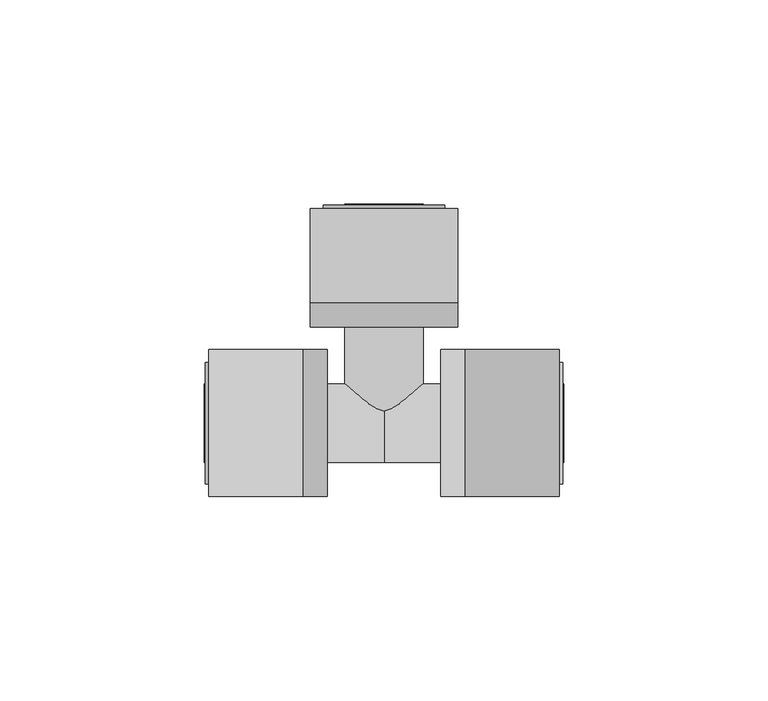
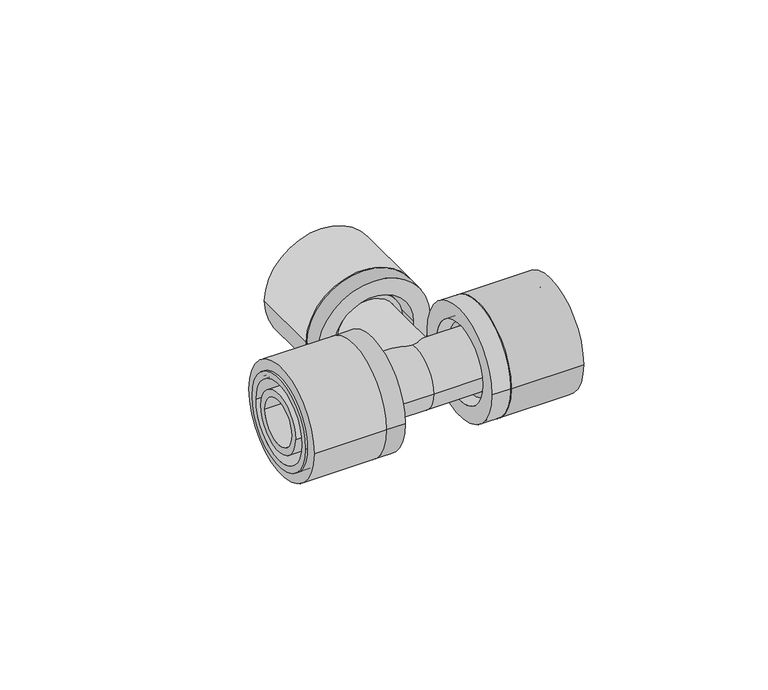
"""IFC4 building model written with IfcOpenShell, lengths in millimetres: pipe fitting geometry, FASTLOC_T-piece_LX : FSL T-Piece LX CZ."""

from ifc_helpers import new_model, si_unit, point, frame, origin, origin_2d, place, context, project, spatial, polyline, circle_curve, trimmed, segment, composite_curve, outline, extrude, source, transform, mapped, element, save
from ifc_brep_helpers import plane_surface, cylinder_surface, revolved_surface, advanced_brep


def pipe_fitting_da5243fc(model_context):
    return source(origin(), model_context, "Body", "SolidModel", [
        extrude(outline(composite_curve([segment(trimmed(circle_curve(origin_2d(), 18.0), [point((-18.0, 0.0))], [point((18.0, 0.0))], False, "CARTESIAN"), True, "CONTINUOUS"), segment(trimmed(circle_curve(origin_2d(), 18.0), [point((18.0, 0.0))], [point((-18.0, 0.0))], False, "CARTESIAN"), True, "CONTINUOUS")], self_intersect=False), holes=[composite_curve([segment(trimmed(circle_curve(origin_2d(), 13.5), [point((-13.5, 0.0))], [point((13.5, 0.0))], True, "CARTESIAN"), True, "CONTINUOUS"), segment(trimmed(circle_curve(origin_2d(), 13.5), [point((13.5, 0.0))], [point((-13.5, 0.0))], True, "CARTESIAN"), True, "CONTINUOUS")], self_intersect=False)]), frame((19.9, 0.0, 0.0), z_axis=(1.0, 0.0, 0.0), x_axis=(0.0, 1.0, 0.0)), (0.0, 0.0, 1.0), 23.0),
        advanced_brep(
        [(19.9, 18.0, 0.0), (19.9, -18.0, 0.0), (13.9, -18.0, 0.0), (13.9, 18.0, 0.0), (43.7, 14.85, 0.0), (43.7, -14.85, 0.0), (19.9, -14.85, 0.0), (19.9, 14.85, 0.0), (13.9, 12.65, 0.0), (13.9, -12.65, 0.0), (43.7, -12.65, 0.0), (43.7, 12.65, 0.0)],
        [
            (0, 1, circle_curve(frame((19.9, 0.0, 0.0), z_axis=(-1.0, 0.0, 0.0), x_axis=(0.0, -1.0, 0.0)), 18.0)),
            (1, 2),
            (2, 3, circle_curve(frame((13.9, 0.0, 0.0), z_axis=(1.0, 0.0, 0.0), x_axis=(0.0, -1.0, 0.0)), 18.0)),
            (3, 0),
            (4, 5, circle_curve(frame((43.7, 0.0, 0.0), z_axis=(-1.0, 0.0, 0.0), x_axis=(0.0, -1.0, 0.0)), 14.85)),
            (5, 6),
            (6, 7, circle_curve(frame((19.9, 0.0, 0.0), z_axis=(1.0, 0.0, 0.0), x_axis=(0.0, -1.0, 0.0)), 14.85)),
            (7, 4),
            (8, 9, circle_curve(frame((13.9, 0.0, 0.0), z_axis=(-1.0, 0.0, 0.0), x_axis=(0.0, -1.0, 0.0)), 12.65)),
            (9, 10),
            (10, 11, circle_curve(frame((43.7, 0.0, 0.0), z_axis=(1.0, 0.0, 0.0), x_axis=(0.0, -1.0, 0.0)), 12.65)),
            (11, 8),
            (1, 0, circle_curve(frame((19.9, 0.0, 0.0), z_axis=(-1.0, 0.0, 0.0), x_axis=(0.0, 1.0, 0.0)), 18.0)),
            (3, 2, circle_curve(frame((13.9, 0.0, 0.0), z_axis=(1.0, 0.0, 0.0), x_axis=(0.0, 1.0, 0.0)), 18.0)),
            (6, 7, circle_curve(frame((19.9, 0.0, 0.0), z_axis=(-1.0, 0.0, 0.0), x_axis=(0.0, 1.0, 0.0)), 14.85)),
            (5, 4, circle_curve(frame((43.7, 0.0, 0.0), z_axis=(-1.0, 0.0, 0.0), x_axis=(0.0, 1.0, 0.0)), 14.85)),
            (10, 11, circle_curve(frame((43.7, 0.0, 0.0), z_axis=(-1.0, 0.0, 0.0), x_axis=(0.0, 1.0, 0.0)), 12.65)),
            (9, 8, circle_curve(frame((13.9, 0.0, 0.0), z_axis=(-1.0, 0.0, 0.0), x_axis=(0.0, 1.0, 0.0)), 12.65)),
        ],
        [
            cylinder_surface(frame((13.9, 0.0, 0.0), z_axis=(1.0, 0.0, 0.0), x_axis=(0.0, -1.0, 0.0)), 18.0),
            cylinder_surface(frame((13.9, 0.0, 0.0), z_axis=(1.0, 0.0, 0.0), x_axis=(0.0, -1.0, 0.0)), 14.85),
            revolved_surface(polyline([(43.7, -12.65, 0.0), (13.9, -12.65, 0.0)]), (13.9, 0.0, 0.0), (1.0, 0.0, 0.0)),
            cylinder_surface(frame((13.9, 0.0, 0.0), z_axis=(1.0, 0.0, 0.0), x_axis=(0.0, 1.0, 0.0)), 18.0),
            plane_surface(frame((19.9, 0.0, 0.0), z_axis=(1.0, 0.0, 0.0), x_axis=(0.0, 1.0, 0.0))),
            cylinder_surface(frame((13.9, 0.0, 0.0), z_axis=(1.0, 0.0, 0.0), x_axis=(0.0, 1.0, 0.0)), 14.85),
            plane_surface(frame((43.7, 0.0, 0.0), z_axis=(1.0, 0.0, 0.0), x_axis=(0.0, 1.0, 0.0))),
            revolved_surface(polyline([(43.7, 12.65, 0.0), (13.9, 12.65, 0.0)]), (13.9, 0.0, 0.0), (1.0, 0.0, 0.0)),
            plane_surface(frame((13.9, 0.0, 0.0), z_axis=(-1.0, 0.0, 0.0), x_axis=(0.0, 1.0, 0.0))),
        ],
        [
            (0, [[1, 2, 3, 4]]),
            (1, [[5, 6, 7, 8]]),
            (2, [[9, 10, 11, 12]]),
            (3, [[13, -4, 14, -2]]),
            (4, [[-13, -1], [15, -7]]),
            (5, [[16, -8, -15, -6]]),
            (6, [[-16, -5], [17, -11]]),
            (7, [[18, -12, -17, -10]]),
            (8, [[-14, -3], [-18, -9]]),
        ],
    ),
        extrude(outline(composite_curve([segment(trimmed(circle_curve(origin_2d(), 18.0), [point((18.0, 0.0))], [point((-18.0, 0.0))], False, "CARTESIAN"), True, "CONTINUOUS"), segment(trimmed(circle_curve(origin_2d(), 18.0), [point((-18.0, 0.0))], [point((18.0, 0.0))], False, "CARTESIAN"), True, "CONTINUOUS")], self_intersect=False), holes=[composite_curve([segment(trimmed(circle_curve(origin_2d(), 13.5), [point((13.5, 0.0))], [point((-13.5, 0.0))], True, "CARTESIAN"), True, "CONTINUOUS"), segment(trimmed(circle_curve(origin_2d(), 13.5), [point((-13.5, 0.0))], [point((13.5, 0.0))], True, "CARTESIAN"), True, "CONTINUOUS")], self_intersect=False)]), frame((-42.9, 0.0, 0.0), z_axis=(1.0, 0.0, 0.0), x_axis=(0.0, 1.0, 0.0)), (0.0, 0.0, 1.0), 23.0),
        advanced_brep(
        [(-19.9, -18.0, 0.0), (-19.9, 18.0, 0.0), (-13.9, 18.0, 0.0), (-13.9, -18.0, 0.0), (-43.7, -14.85, 0.0), (-43.7, 14.85, 0.0), (-19.9, 14.85, 0.0), (-19.9, -14.85, 0.0), (-13.9, -12.65, 0.0), (-13.9, 12.65, 0.0), (-43.7, 12.65, 0.0), (-43.7, -12.65, 0.0)],
        [
            (0, 1, circle_curve(frame((-19.9, 0.0, 0.0), z_axis=(1.0, 0.0, 0.0), x_axis=(0.0, 1.0, 0.0)), 18.0)),
            (1, 2),
            (2, 3, circle_curve(frame((-13.9, 0.0, 0.0), z_axis=(-1.0, 0.0, 0.0), x_axis=(0.0, 1.0, 0.0)), 18.0)),
            (3, 0),
            (4, 5, circle_curve(frame((-43.7, 0.0, 0.0), z_axis=(1.0, 0.0, 0.0), x_axis=(0.0, 1.0, 0.0)), 14.85)),
            (5, 6),
            (6, 7, circle_curve(frame((-19.9, 0.0, 0.0), z_axis=(-1.0, 0.0, 0.0), x_axis=(0.0, 1.0, 0.0)), 14.85)),
            (7, 4),
            (8, 9, circle_curve(frame((-13.9, 0.0, 0.0), z_axis=(1.0, 0.0, 0.0), x_axis=(0.0, 1.0, 0.0)), 12.65)),
            (9, 10),
            (10, 11, circle_curve(frame((-43.7, 0.0, 0.0), z_axis=(-1.0, 0.0, 0.0), x_axis=(0.0, 1.0, 0.0)), 12.65)),
            (11, 8),
            (1, 0, circle_curve(frame((-19.9, 0.0, 0.0), z_axis=(1.0, 0.0, 0.0), x_axis=(0.0, -1.0, 0.0)), 18.0)),
            (3, 2, circle_curve(frame((-13.9, 0.0, 0.0), z_axis=(-1.0, 0.0, 0.0), x_axis=(0.0, -1.0, 0.0)), 18.0)),
            (6, 7, circle_curve(frame((-19.9, 0.0, 0.0), z_axis=(1.0, 0.0, 0.0), x_axis=(0.0, -1.0, 0.0)), 14.85)),
            (5, 4, circle_curve(frame((-43.7, 0.0, 0.0), z_axis=(1.0, 0.0, 0.0), x_axis=(0.0, -1.0, 0.0)), 14.85)),
            (10, 11, circle_curve(frame((-43.7, 0.0, 0.0), z_axis=(1.0, 0.0, 0.0), x_axis=(0.0, -1.0, 0.0)), 12.65)),
            (9, 8, circle_curve(frame((-13.9, 0.0, 0.0), z_axis=(1.0, 0.0, 0.0), x_axis=(0.0, -1.0, 0.0)), 12.65)),
        ],
        [
            cylinder_surface(frame((-13.9, 0.0, 0.0), z_axis=(-1.0, 0.0, 0.0), x_axis=(0.0, 1.0, 0.0)), 18.0),
            cylinder_surface(frame((-13.9, 0.0, 0.0), z_axis=(-1.0, 0.0, 0.0), x_axis=(0.0, 1.0, 0.0)), 14.85),
            revolved_surface(polyline([(-43.7, 12.65, 0.0), (-13.9, 12.65, 0.0)]), (-13.9, 0.0, 0.0), (-1.0, 0.0, 0.0)),
            cylinder_surface(frame((-13.9, 0.0, 0.0), z_axis=(-1.0, 0.0, 0.0), x_axis=(0.0, -1.0, 0.0)), 18.0),
            plane_surface(frame((-19.9, 0.0, 0.0), z_axis=(-1.0, 0.0, 0.0), x_axis=(0.0, -1.0, 0.0))),
            cylinder_surface(frame((-13.9, 0.0, 0.0), z_axis=(-1.0, 0.0, 0.0), x_axis=(0.0, -1.0, 0.0)), 14.85),
            plane_surface(frame((-43.7, 0.0, 0.0), z_axis=(-1.0, 0.0, 0.0), x_axis=(0.0, -1.0, 0.0))),
            revolved_surface(polyline([(-43.7, -12.65, 0.0), (-13.9, -12.65, 0.0)]), (-13.9, 0.0, 0.0), (-1.0, 0.0, 0.0)),
            plane_surface(frame((-13.9, 0.0, 0.0), z_axis=(1.0, 0.0, 0.0), x_axis=(0.0, -1.0, 0.0))),
        ],
        [
            (0, [[1, 2, 3, 4]]),
            (1, [[5, 6, 7, 8]]),
            (2, [[9, 10, 11, 12]]),
            (3, [[13, -4, 14, -2]]),
            (4, [[-13, -1], [15, -7]]),
            (5, [[16, -8, -15, -6]]),
            (6, [[-16, -5], [17, -11]]),
            (7, [[18, -12, -17, -10]]),
            (8, [[-14, -3], [-18, -9]]),
        ],
    ),
        extrude(outline(composite_curve([segment(trimmed(circle_curve(origin_2d(), 18.0), [point((0.0, 18.0))], [point((0.0, -18.0))], False, "CARTESIAN"), True, "CONTINUOUS"), segment(trimmed(circle_curve(origin_2d(), 18.0), [point((0.0, -18.0))], [point((0.0, 18.0))], False, "CARTESIAN"), True, "CONTINUOUS")], self_intersect=False), holes=[composite_curve([segment(trimmed(circle_curve(origin_2d(), 13.5), [point((0.0, 13.5))], [point((0.0, -13.5))], True, "CARTESIAN"), True, "CONTINUOUS"), segment(trimmed(circle_curve(origin_2d(), 13.5), [point((0.0, -13.5))], [point((0.0, 13.5))], True, "CARTESIAN"), True, "CONTINUOUS")], self_intersect=False)]), frame((0.0, 29.5, 0.0), z_axis=(0.0, 1.0, 0.0), x_axis=(0.0, 0.0, 1.0)), (0.0, 0.0, 1.0), 23.0),
        advanced_brep(
        [(-18.0, 29.5, 0.0), (18.0, 29.5, 0.0), (18.0, 23.5, 0.0), (-18.0, 23.5, 0.0), (-14.85, 53.3, 0.0), (14.85, 53.3, 0.0), (14.85, 29.5, 0.0), (-14.85, 29.5, 0.0), (-12.65, 23.5, 0.0), (12.65, 23.5, 0.0), (12.65, 53.3, 0.0), (-12.65, 53.3, 0.0)],
        [
            (0, 1, circle_curve(frame((0.0, 29.5, 0.0), z_axis=(0.0, -1.0, 0.0), x_axis=(1.0, 0.0, 0.0)), 18.0)),
            (1, 2),
            (2, 3, circle_curve(frame((0.0, 23.5, 0.0), z_axis=(0.0, 1.0, 0.0), x_axis=(1.0, 0.0, 0.0)), 18.0)),
            (3, 0),
            (4, 5, circle_curve(frame((0.0, 53.3, 0.0), z_axis=(0.0, -1.0, 0.0), x_axis=(1.0, 0.0, 0.0)), 14.85)),
            (5, 6),
            (6, 7, circle_curve(frame((0.0, 29.5, 0.0), z_axis=(0.0, 1.0, 0.0), x_axis=(1.0, 0.0, 0.0)), 14.85)),
            (7, 4),
            (8, 9, circle_curve(frame((0.0, 23.5, 0.0), z_axis=(0.0, -1.0, 0.0), x_axis=(1.0, 0.0, 0.0)), 12.65)),
            (9, 10),
            (10, 11, circle_curve(frame((0.0, 53.3, 0.0), z_axis=(0.0, 1.0, 0.0), x_axis=(1.0, 0.0, 0.0)), 12.65)),
            (11, 8),
            (1, 0, circle_curve(frame((0.0, 29.5, 0.0), z_axis=(0.0, -1.0, 0.0), x_axis=(-1.0, 0.0, 0.0)), 18.0)),
            (3, 2, circle_curve(frame((0.0, 23.5, 0.0), z_axis=(0.0, 1.0, 0.0), x_axis=(-1.0, 0.0, 0.0)), 18.0)),
            (6, 7, circle_curve(frame((0.0, 29.5, 0.0), z_axis=(0.0, -1.0, 0.0), x_axis=(-1.0, 0.0, 0.0)), 14.85)),
            (5, 4, circle_curve(frame((0.0, 53.3, 0.0), z_axis=(0.0, -1.0, 0.0), x_axis=(-1.0, 0.0, 0.0)), 14.85)),
            (10, 11, circle_curve(frame((0.0, 53.3, 0.0), z_axis=(0.0, -1.0, 0.0), x_axis=(-1.0, 0.0, 0.0)), 12.65)),
            (9, 8, circle_curve(frame((0.0, 23.5, 0.0), z_axis=(0.0, -1.0, 0.0), x_axis=(-1.0, 0.0, 0.0)), 12.65)),
        ],
        [
            cylinder_surface(frame((0.0, 23.5, 0.0), z_axis=(0.0, 1.0, 0.0), x_axis=(1.0, 0.0, 0.0)), 18.0),
            cylinder_surface(frame((0.0, 23.5, 0.0), z_axis=(0.0, 1.0, 0.0), x_axis=(1.0, 0.0, 0.0)), 14.85),
            revolved_surface(polyline([(12.65, 53.3, 0.0), (12.65, 23.5, 0.0)]), (0.0, 23.5, 0.0), (0.0, 1.0, 0.0)),
            cylinder_surface(frame((0.0, 23.5, 0.0), z_axis=(0.0, 1.0, 0.0), x_axis=(-1.0, 0.0, 0.0)), 18.0),
            plane_surface(frame((0.0, 29.5, 0.0), z_axis=(0.0, 1.0, 0.0), x_axis=(-1.0, 0.0, 0.0))),
            cylinder_surface(frame((0.0, 23.5, 0.0), z_axis=(0.0, 1.0, 0.0), x_axis=(-1.0, 0.0, 0.0)), 14.85),
            plane_surface(frame((0.0, 53.3, 0.0), z_axis=(0.0, 1.0, 0.0), x_axis=(-1.0, 0.0, 0.0))),
            revolved_surface(polyline([(-12.65, 53.3, 0.0), (-12.65, 23.5, 0.0)]), (0.0, 23.5, 0.0), (0.0, 1.0, 0.0)),
            plane_surface(frame((0.0, 23.5, 0.0), z_axis=(0.0, -1.0, 0.0), x_axis=(-1.0, 0.0, 0.0))),
        ],
        [
            (0, [[1, 2, 3, 4]]),
            (1, [[5, 6, 7, 8]]),
            (2, [[9, 10, 11, 12]]),
            (3, [[13, -4, 14, -2]]),
            (4, [[-13, -1], [15, -7]]),
            (5, [[16, -8, -15, -6]]),
            (6, [[-16, -5], [17, -11]]),
            (7, [[18, -12, -17, -10]]),
            (8, [[-14, -3], [-18, -9]]),
        ],
    ),
        advanced_brep(
        [(0.0, 9.6, 0.0), (0.0, -9.6, 0.0), (-17.1, -9.6, 0.0), (-17.1, 9.6, 0.0), (17.1, 9.6, 0.0), (17.1, -9.6, 0.0), (19.9, 11.1, 0.0), (19.9, -11.1, 0.0), (17.1, -11.1, 0.0), (17.1, 11.1, 0.0), (43.9, 9.6, 0.0), (43.9, -9.6, 0.0), (19.9, -9.6, 0.0), (19.9, 9.6, 0.0), (-19.9, 9.6, 0.0), (-19.9, -9.6, 0.0), (-43.9, -9.6, 0.0), (-43.9, 9.6, 0.0), (-17.1, 11.1, 0.0), (-17.1, -11.1, 0.0), (-19.9, -11.1, 0.0), (-19.9, 11.1, 0.0), (43.9, -7.35, 0.0), (43.9, 7.35, 0.0), (-43.9, 7.35, 0.0), (-43.9, -7.35, 0.0), (0.0, 7.35, 0.0), (0.0, -7.35, 0.0)],
        [
            (0, 1, circle_curve(frame((0.0, 0.0, 0.0), z_axis=(-1.0, 0.0, 0.0), x_axis=(0.0, -1.0, 0.0)), 9.6)),
            (1, 2),
            (2, 3, circle_curve(frame((-17.1, 0.0, 0.0), z_axis=(1.0, 0.0, 0.0), x_axis=(0.0, -1.0, 0.0)), 9.6)),
            (3, 0),
            (4, 5, circle_curve(frame((17.1, 0.0, 0.0), z_axis=(-1.0, 0.0, 0.0), x_axis=(0.0, -1.0, 0.0)), 9.6)),
            (5, 1),
            (0, 4),
            (6, 7, circle_curve(frame((19.9, 0.0, 0.0), z_axis=(-1.0, 0.0, 0.0), x_axis=(0.0, -1.0, 0.0)), 11.1)),
            (7, 8),
            (8, 9, circle_curve(frame((17.1, 0.0, 0.0), z_axis=(1.0, 0.0, 0.0), x_axis=(0.0, -1.0, 0.0)), 11.1)),
            (9, 6),
            (10, 11, circle_curve(frame((43.9, 0.0, 0.0), z_axis=(-1.0, 0.0, 0.0), x_axis=(0.0, -1.0, 0.0)), 9.6)),
            (11, 12),
            (12, 13, circle_curve(frame((19.9, 0.0, 0.0), z_axis=(1.0, 0.0, 0.0), x_axis=(0.0, -1.0, 0.0)), 9.6)),
            (13, 10),
            (14, 15, circle_curve(frame((-19.9, 0.0, 0.0), z_axis=(-1.0, 0.0, 0.0), x_axis=(0.0, -1.0, 0.0)), 9.6)),
            (15, 16),
            (16, 17, circle_curve(frame((-43.9, 0.0, 0.0), z_axis=(1.0, 0.0, 0.0), x_axis=(0.0, -1.0, 0.0)), 9.6)),
            (17, 14),
            (18, 19, circle_curve(frame((-17.1, 0.0, 0.0), z_axis=(-1.0, 0.0, 0.0), x_axis=(0.0, -1.0, 0.0)), 11.1)),
            (19, 20),
            (20, 21, circle_curve(frame((-19.9, 0.0, 0.0), z_axis=(1.0, 0.0, 0.0), x_axis=(0.0, -1.0, 0.0)), 11.1)),
            (21, 18),
            (18, 19, circle_curve(frame((-17.1, 0.0, 0.0), z_axis=(1.0, 0.0, 0.0), x_axis=(0.0, 1.0, 0.0)), 11.1)),
            (2, 3, circle_curve(frame((-17.1, 0.0, 0.0), z_axis=(-1.0, 0.0, 0.0), x_axis=(0.0, 1.0, 0.0)), 9.6)),
            (1, 0, circle_curve(frame((0.0, 0.0, 0.0), z_axis=(-1.0, 0.0, 0.0), x_axis=(0.0, 1.0, 0.0)), 9.6)),
            (5, 4, circle_curve(frame((17.1, 0.0, 0.0), z_axis=(-1.0, 0.0, 0.0), x_axis=(0.0, 1.0, 0.0)), 9.6)),
            (8, 9, circle_curve(frame((17.1, 0.0, 0.0), z_axis=(-1.0, 0.0, 0.0), x_axis=(0.0, 1.0, 0.0)), 11.1)),
            (7, 6, circle_curve(frame((19.9, 0.0, 0.0), z_axis=(-1.0, 0.0, 0.0), x_axis=(0.0, 1.0, 0.0)), 11.1)),
            (12, 13, circle_curve(frame((19.9, 0.0, 0.0), z_axis=(-1.0, 0.0, 0.0), x_axis=(0.0, 1.0, 0.0)), 9.6)),
            (11, 10, circle_curve(frame((43.9, 0.0, 0.0), z_axis=(-1.0, 0.0, 0.0), x_axis=(0.0, 1.0, 0.0)), 9.6)),
            (22, 23, circle_curve(frame((43.9, 0.0, 0.0), z_axis=(-1.0, 0.0, 0.0), x_axis=(0.0, 1.0, 0.0)), 7.35)),
            (23, 22, circle_curve(frame((43.9, 0.0, 0.0), z_axis=(-1.0, 0.0, 0.0), x_axis=(0.0, -1.0, 0.0)), 7.35)),
            (16, 17, circle_curve(frame((-43.9, 0.0, 0.0), z_axis=(-1.0, 0.0, 0.0), x_axis=(0.0, 1.0, 0.0)), 9.6)),
            (24, 25, circle_curve(frame((-43.9, 0.0, 0.0), z_axis=(1.0, 0.0, 0.0), x_axis=(0.0, 1.0, 0.0)), 7.35)),
            (25, 24, circle_curve(frame((-43.9, 0.0, 0.0), z_axis=(1.0, 0.0, 0.0), x_axis=(0.0, -1.0, 0.0)), 7.35)),
            (15, 14, circle_curve(frame((-19.9, 0.0, 0.0), z_axis=(-1.0, 0.0, 0.0), x_axis=(0.0, 1.0, 0.0)), 9.6)),
            (20, 21, circle_curve(frame((-19.9, 0.0, 0.0), z_axis=(-1.0, 0.0, 0.0), x_axis=(0.0, 1.0, 0.0)), 11.1)),
            (26, 27, circle_curve(frame((0.0, 0.0, 0.0), z_axis=(-1.0, 0.0, 0.0), x_axis=(0.0, -1.0, 0.0)), 7.35)),
            (27, 22),
            (23, 26),
            (25, 27),
            (26, 24),
            (27, 26, circle_curve(frame((0.0, 0.0, 0.0), z_axis=(-1.0, 0.0, 0.0), x_axis=(0.0, 1.0, 0.0)), 7.35)),
        ],
        [
            cylinder_surface(frame((0.0, 0.0, 0.0), z_axis=(1.0, 0.0, 0.0), x_axis=(0.0, -1.0, 0.0)), 9.6),
            cylinder_surface(frame((0.0, 0.0, 0.0), z_axis=(1.0, 0.0, 0.0), x_axis=(0.0, -1.0, 0.0)), 11.1),
            plane_surface(frame((-17.1, 0.0, 0.0), z_axis=(1.0, 0.0, 0.0), x_axis=(0.0, 1.0, 0.0))),
            cylinder_surface(frame((0.0, 0.0, 0.0), z_axis=(1.0, 0.0, 0.0), x_axis=(0.0, 1.0, 0.0)), 9.6),
            plane_surface(frame((17.1, 0.0, 0.0), z_axis=(-1.0, 0.0, 0.0), x_axis=(0.0, 1.0, 0.0))),
            cylinder_surface(frame((0.0, 0.0, 0.0), z_axis=(1.0, 0.0, 0.0), x_axis=(0.0, 1.0, 0.0)), 11.1),
            plane_surface(frame((19.9, 0.0, 0.0), z_axis=(1.0, 0.0, 0.0), x_axis=(0.0, 1.0, 0.0))),
            plane_surface(frame((43.9, 0.0, 0.0), z_axis=(1.0, 0.0, 0.0), x_axis=(0.0, 1.0, 0.0))),
            plane_surface(frame((-43.9, 0.0, 0.0), z_axis=(-1.0, 0.0, 0.0), x_axis=(0.0, 1.0, 0.0))),
            plane_surface(frame((-19.9, 0.0, 0.0), z_axis=(-1.0, 0.0, 0.0), x_axis=(0.0, 1.0, 0.0))),
            revolved_surface(polyline([(43.9, -7.35, 0.0), (0.0, -7.35, 0.0)]), (0.0, 0.0, 0.0), (1.0, 0.0, 0.0)),
            revolved_surface(polyline([(0.0, -7.35, 0.0), (-43.9, -7.35, 0.0)]), (0.0, 0.0, 0.0), (1.0, 0.0, 0.0)),
            revolved_surface(polyline([(43.9, 7.35, 0.0), (0.0, 7.35, 0.0)]), (0.0, 0.0, 0.0), (1.0, 0.0, 0.0)),
            revolved_surface(polyline([(0.0, 7.35, 0.0), (-43.9, 7.35, 0.0)]), (0.0, 0.0, 0.0), (1.0, 0.0, 0.0)),
        ],
        [
            (0, [[1, 2, 3, 4]]),
            (0, [[5, 6, -1, 7]]),
            (1, [[8, 9, 10, 11]]),
            (0, [[12, 13, 14, 15]]),
            (0, [[16, 17, 18, 19]]),
            (1, [[20, 21, 22, 23]]),
            (2, [[24, -20], [25, -3]]),
            (3, [[26, -4, -25, -2]]),
            (3, [[27, -7, -26, -6]]),
            (4, [[28, -10], [-27, -5]]),
            (5, [[29, -11, -28, -9]]),
            (6, [[-29, -8], [30, -14]]),
            (3, [[31, -15, -30, -13]]),
            (7, [[-31, -12], [32, 33]]),
            (8, [[34, -18], [35, 36]]),
            (3, [[37, -19, -34, -17]]),
            (9, [[38, -22], [-37, -16]]),
            (5, [[-24, -23, -38, -21]]),
            (10, [[39, 40, -33, 41]]),
            (11, [[-36, 42, -39, 43]]),
            (12, [[44, -41, -32, -40]]),
            (13, [[-35, -43, -44, -42]]),
        ],
    ),
        advanced_brep(
        [(7.35, 53.5, 0.0), (-7.35, 53.5, 0.0), (-7.35, 0.0, 0.0), (7.35, 0.0, 0.0), (9.6, 0.0, 0.0), (-9.6, 0.0, 0.0), (-9.6, 26.7, 0.0), (9.6, 26.7, 0.0), (11.1, 26.7, 0.0), (-11.1, 26.7, 0.0), (-11.1, 29.5, 0.0), (11.1, 29.5, 0.0), (9.6, 29.5, 0.0), (-9.6, 29.5, 0.0), (-9.6, 53.5, 0.0), (9.6, 53.5, 0.0)],
        [
            (0, 1, circle_curve(frame((0.0, 53.5, 0.0), z_axis=(0.0, 1.0, 0.0), x_axis=(-1.0, 0.0, 0.0)), 7.35)),
            (1, 2),
            (2, 3, circle_curve(frame((0.0, 0.0, 0.0), z_axis=(0.0, -1.0, 0.0), x_axis=(-1.0, 0.0, 0.0)), 7.35)),
            (3, 0),
            (4, 5, circle_curve(frame((0.0, 0.0, 0.0), z_axis=(0.0, 1.0, 0.0), x_axis=(-1.0, 0.0, 0.0)), 9.6)),
            (5, 6),
            (6, 7, circle_curve(frame((0.0, 26.7, 0.0), z_axis=(0.0, -1.0, 0.0), x_axis=(-1.0, 0.0, 0.0)), 9.6)),
            (7, 4),
            (8, 9, circle_curve(frame((0.0, 26.7, 0.0), z_axis=(0.0, 1.0, 0.0), x_axis=(-1.0, 0.0, 0.0)), 11.1)),
            (9, 10),
            (10, 11, circle_curve(frame((0.0, 29.5, 0.0), z_axis=(0.0, -1.0, 0.0), x_axis=(-1.0, 0.0, 0.0)), 11.1)),
            (11, 8),
            (12, 13, circle_curve(frame((0.0, 29.5, 0.0), z_axis=(0.0, 1.0, 0.0), x_axis=(-1.0, 0.0, 0.0)), 9.6)),
            (13, 14),
            (14, 15, circle_curve(frame((0.0, 53.5, 0.0), z_axis=(0.0, -1.0, 0.0), x_axis=(-1.0, 0.0, 0.0)), 9.6)),
            (15, 12),
            (1, 0, circle_curve(frame((0.0, 53.5, 0.0), z_axis=(0.0, 1.0, 0.0), x_axis=(1.0, 0.0, 0.0)), 7.35)),
            (3, 2, circle_curve(frame((0.0, 0.0, 0.0), z_axis=(0.0, -1.0, 0.0), x_axis=(1.0, 0.0, 0.0)), 7.35)),
            (4, 5, circle_curve(frame((0.0, 0.0, 0.0), z_axis=(0.0, -1.0, 0.0), x_axis=(1.0, 0.0, 0.0)), 9.6)),
            (7, 6, circle_curve(frame((0.0, 26.7, 0.0), z_axis=(0.0, -1.0, 0.0), x_axis=(1.0, 0.0, 0.0)), 9.6)),
            (8, 9, circle_curve(frame((0.0, 26.7, 0.0), z_axis=(0.0, -1.0, 0.0), x_axis=(1.0, 0.0, 0.0)), 11.1)),
            (11, 10, circle_curve(frame((0.0, 29.5, 0.0), z_axis=(0.0, -1.0, 0.0), x_axis=(1.0, 0.0, 0.0)), 11.1)),
            (12, 13, circle_curve(frame((0.0, 29.5, 0.0), z_axis=(0.0, -1.0, 0.0), x_axis=(1.0, 0.0, 0.0)), 9.6)),
            (15, 14, circle_curve(frame((0.0, 53.5, 0.0), z_axis=(0.0, -1.0, 0.0), x_axis=(1.0, 0.0, 0.0)), 9.6)),
        ],
        [
            revolved_surface(polyline([(-7.35, 0.0, 0.0), (-7.35, 53.5, 0.0)]), (0.0, 0.0, 0.0), (0.0, -1.0, 0.0)),
            cylinder_surface(frame((0.0, 0.0, 0.0), z_axis=(0.0, -1.0, 0.0), x_axis=(-1.0, 0.0, 0.0)), 9.6),
            cylinder_surface(frame((0.0, 0.0, 0.0), z_axis=(0.0, -1.0, 0.0), x_axis=(-1.0, 0.0, 0.0)), 11.1),
            revolved_surface(polyline([(7.35, 0.0, 0.0), (7.35, 53.5, 0.0)]), (0.0, 0.0, 0.0), (0.0, -1.0, 0.0)),
            plane_surface(frame((0.0, 0.0, 0.0), z_axis=(0.0, -1.0, 0.0), x_axis=(1.0, 0.0, 0.0))),
            cylinder_surface(frame((0.0, 0.0, 0.0), z_axis=(0.0, -1.0, 0.0), x_axis=(1.0, 0.0, 0.0)), 9.6),
            plane_surface(frame((0.0, 26.7, 0.0), z_axis=(0.0, -1.0, 0.0), x_axis=(1.0, 0.0, 0.0))),
            cylinder_surface(frame((0.0, 0.0, 0.0), z_axis=(0.0, -1.0, 0.0), x_axis=(1.0, 0.0, 0.0)), 11.1),
            plane_surface(frame((0.0, 29.5, 0.0), z_axis=(0.0, 1.0, 0.0), x_axis=(1.0, 0.0, 0.0))),
            plane_surface(frame((0.0, 53.5, 0.0), z_axis=(0.0, 1.0, 0.0), x_axis=(1.0, 0.0, 0.0))),
        ],
        [
            (0, [[1, 2, 3, 4]]),
            (1, [[5, 6, 7, 8]]),
            (2, [[9, 10, 11, 12]]),
            (1, [[13, 14, 15, 16]]),
            (3, [[17, -4, 18, -2]]),
            (4, [[19, -5], [-18, -3]]),
            (5, [[-19, -8, 20, -6]]),
            (6, [[21, -9], [-20, -7]]),
            (7, [[-21, -12, 22, -10]]),
            (8, [[-22, -11], [23, -13]]),
            (5, [[-23, -16, 24, -14]]),
            (9, [[-24, -15], [-17, -1]]),
        ],
    ),
    ])


if __name__ == "__main__":
    model = new_model("IFC4")
    model_context = context("Model", 3, world=origin())
    ifc_project = project(units=[si_unit("LENGTHUNIT", "METRE", prefix="MILLI")], contexts=[model_context])
    site = spatial("IfcSite", under=ifc_project)
    building = spatial("IfcBuilding", under=site)
    placement = place(None, origin())
    pipe_fitting_shape = pipe_fitting_da5243fc(model_context)
    element("IfcPipeFitting", 1, ObjectType="FASTLOC_T-piece_LX : FSL T-Piece LX CZ", at=placement, inside=building, context=model_context, shape_type="MappedRepresentation", body=[
        mapped(pipe_fitting_shape, transform((0.0, 0.0, 0.0), x_axis=(1.0, 0.0, 0.0), y_axis=(0.0, 1.0, 0.0), z_axis=(0.0, 0.0, 1.0))),
    ])
    save(model, "model.ifc")
